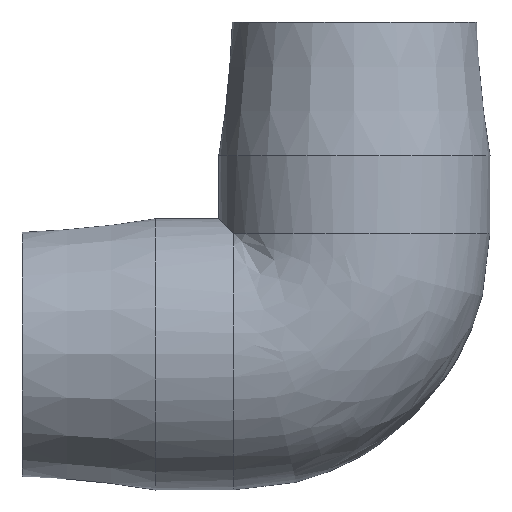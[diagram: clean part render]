
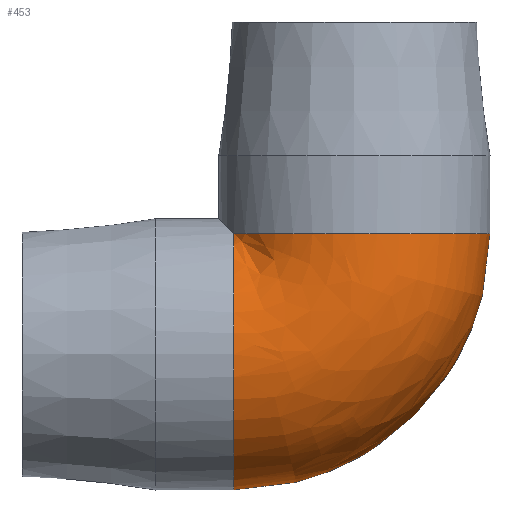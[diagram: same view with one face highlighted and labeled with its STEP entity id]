
A CAD part, front view. The second image highlights one B-rep face of the part: STEP entity #453.
In plain terms, the highlighted free-form (B-spline) face has degree [2, 2] with [9, 3] control points.
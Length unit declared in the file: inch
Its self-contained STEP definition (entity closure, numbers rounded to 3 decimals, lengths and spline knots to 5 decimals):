
#27=(
BOUNDED_SURFACE()
B_SPLINE_SURFACE(2,2,((#763,#764,#765),(#766,#767,#768),(#769,#770,#771),
(#772,#773,#774),(#775,#776,#777),(#778,#779,#780),(#781,#782,#783),(#784,
#785,#786),(#787,#788,#789)),.UNSPECIFIED.,.F.,.F.,.F.)
B_SPLINE_SURFACE_WITH_KNOTS((3,2,2,2,3),(3,3),(-2.66804,-1.33402,
0.,1.33402,2.66804),(0.,1.5708),
 .UNSPECIFIED.)
GEOMETRIC_REPRESENTATION_ITEM()
RATIONAL_B_SPLINE_SURFACE(((1.,0.707,1.),(0.786,
0.556,0.786),(1.,0.707,1.),(0.786,
0.556,0.786),(1.,0.707,1.),(0.786,
0.556,0.786),(1.,0.707,1.),(0.786,
0.556,0.786),(1.,0.707,1.)))
REPRESENTATION_ITEM('')
SURFACE()
);
#88=FACE_OUTER_BOUND('',#120,.T.);
#120=EDGE_LOOP('',(#323,#324,#325,#326));
#164=CIRCLE('',#513,1.095);
#165=CIRCLE('',#514,1.095);
#166=CIRCLE('',#515,1.095);
#167=CIRCLE('',#516,1.095);
#207=VERTEX_POINT('',#790);
#208=VERTEX_POINT('',#791);
#209=VERTEX_POINT('',#793);
#210=VERTEX_POINT('',#795);
#255=EDGE_CURVE('',#207,#208,#164,.T.);
#256=EDGE_CURVE('',#208,#209,#165,.T.);
#257=EDGE_CURVE('',#209,#210,#166,.T.);
#258=EDGE_CURVE('',#210,#207,#167,.T.);
#323=ORIENTED_EDGE('',*,*,#255,.T.);
#324=ORIENTED_EDGE('',*,*,#256,.T.);
#325=ORIENTED_EDGE('',*,*,#257,.T.);
#326=ORIENTED_EDGE('',*,*,#258,.T.);
#453=ADVANCED_FACE('',(#88),#27,.F.);
#513=AXIS2_PLACEMENT_3D('',#792,#606,#607);
#514=AXIS2_PLACEMENT_3D('',#794,#608,#609);
#515=AXIS2_PLACEMENT_3D('',#796,#610,#611);
#516=AXIS2_PLACEMENT_3D('',#797,#612,#613);
#606=DIRECTION('center_axis',(0.,0.,
-1.));
#607=DIRECTION('ref_axis',(-1.,0.,0.));
#608=DIRECTION('center_axis',(0.,0.,
-1.));
#609=DIRECTION('ref_axis',(-1.,0.,0.));
#610=DIRECTION('center_axis',(1.,0.,0.));
#611=DIRECTION('ref_axis',(0.,0.,-1.));
#612=DIRECTION('center_axis',(1.,0.,0.));
#613=DIRECTION('ref_axis',(0.,0.,-1.));
#763=CARTESIAN_POINT('Ctrl Pts',(-0.9745,0.49937,0.9745));
#764=CARTESIAN_POINT('Ctrl Pts',(-0.9745,0.49937,0.9745));
#765=CARTESIAN_POINT('Ctrl Pts',(-0.9745,0.49937,0.9745));
#766=CARTESIAN_POINT('Ctrl Pts',(-0.9745,1.2667,0.58129));
#767=CARTESIAN_POINT('Ctrl Pts',(-0.58129,1.2667,0.58129));
#768=CARTESIAN_POINT('Ctrl Pts',(-0.58129,1.2667,0.9745));
#769=CARTESIAN_POINT('Ctrl Pts',(-0.9745,1.06445,-0.25685));
#770=CARTESIAN_POINT('Ctrl Pts',(0.25685,1.06445,-0.25685));
#771=CARTESIAN_POINT('Ctrl Pts',(0.25685,1.06445,0.9745));
#772=CARTESIAN_POINT('Ctrl Pts',(-0.9745,0.8622,-1.095));
#773=CARTESIAN_POINT('Ctrl Pts',(1.095,0.8622,-1.095));
#774=CARTESIAN_POINT('Ctrl Pts',(1.095,0.8622,0.9745));
#775=CARTESIAN_POINT('Ctrl Pts',(-0.9745,0.,-1.095));
#776=CARTESIAN_POINT('Ctrl Pts',(1.095,0.,-1.095));
#777=CARTESIAN_POINT('Ctrl Pts',(1.095,0.,0.9745));
#778=CARTESIAN_POINT('Ctrl Pts',(-0.9745,-0.8622,
-1.095));
#779=CARTESIAN_POINT('Ctrl Pts',(1.095,-0.8622,-1.095));
#780=CARTESIAN_POINT('Ctrl Pts',(1.095,-0.8622,0.9745));
#781=CARTESIAN_POINT('Ctrl Pts',(-0.9745,-1.06445,-0.25685));
#782=CARTESIAN_POINT('Ctrl Pts',(0.25685,-1.06445,-0.25685));
#783=CARTESIAN_POINT('Ctrl Pts',(0.25685,-1.06445,0.9745));
#784=CARTESIAN_POINT('Ctrl Pts',(-0.9745,-1.2667,0.58129));
#785=CARTESIAN_POINT('Ctrl Pts',(-0.58129,-1.2667,0.58129));
#786=CARTESIAN_POINT('Ctrl Pts',(-0.58129,-1.2667,0.9745));
#787=CARTESIAN_POINT('Ctrl Pts',(-0.9745,-0.49937,
0.9745));
#788=CARTESIAN_POINT('Ctrl Pts',(-0.9745,-0.49937,
0.9745));
#789=CARTESIAN_POINT('Ctrl Pts',(-0.9745,-0.49937,
0.9745));
#790=CARTESIAN_POINT('',(-0.9745,0.49937,0.9745));
#791=CARTESIAN_POINT('',(0.,-1.095,0.9745));
#792=CARTESIAN_POINT('Origin',(0.,0.,
0.9745));
#793=CARTESIAN_POINT('',(-0.9745,-0.49937,0.9745));
#794=CARTESIAN_POINT('Origin',(0.,0.,
0.9745));
#795=CARTESIAN_POINT('',(-0.9745,-1.095,0.));
#796=CARTESIAN_POINT('Origin',(-0.9745,0.,
0.));
#797=CARTESIAN_POINT('Origin',(-0.9745,0.,
0.));
